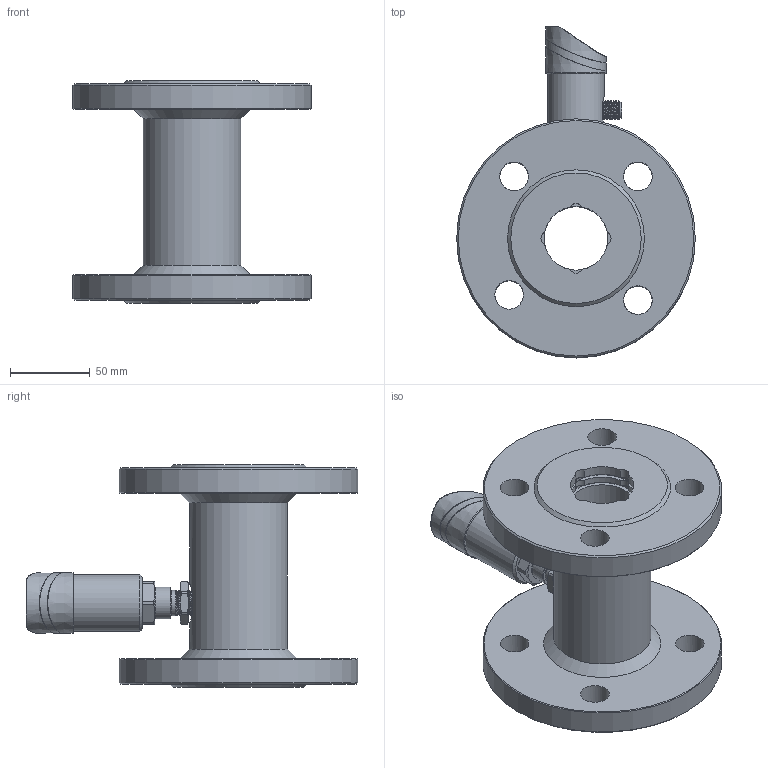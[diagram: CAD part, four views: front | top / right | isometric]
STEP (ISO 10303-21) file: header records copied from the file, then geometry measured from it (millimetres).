
FILE_DESCRIPTION( (''), '2;1');
FILE_NAME( 'QTKE_DN40_flange.step', '2024-10-14T14:58:40+08:00', (''), (''), '', '', '');
FILE_SCHEMA (('AUTOMOTIVE_DESIGN { 1 0 10303 214 3 1 1 1 }'));
Length unit declared in the file: millimetre
Products named in the file (1): QTKE DN40_flange
Bounding box: 150 x 208.5 x 140 mm (x, y, z)
Volume: 754969.9 mm3; surface area: 146200.3 mm2
Topology: 5 solids, 6 shells, 769 faces, 1997 edges, 1309 vertices
Faces by surface type: plane 274, cylinder 175, extrusion 141, cone 78, bspline 58, torus 32, sphere 11
Full cylindrical faces by diameter (mm): 1.689 x1, 2.7 x3, 12 x1, 15.9 x1, 16.5 x2, 18 x8, 20 x1, 23 x3, 26 x5, 35.5 x1, 37.001 x1, 40 x1, 45 x4, 61.5 x1, 150 x2
Entity records: 34248 total; most frequent: CARTESIAN_POINT 15123, ORIENTED_EDGE 3760, DIRECTION 3107, EDGE_CURVE 1880, VERTEX_POINT 1266, AXIS2_PLACEMENT_3D 1063, VECTOR 981, EDGE_LOOP 934
